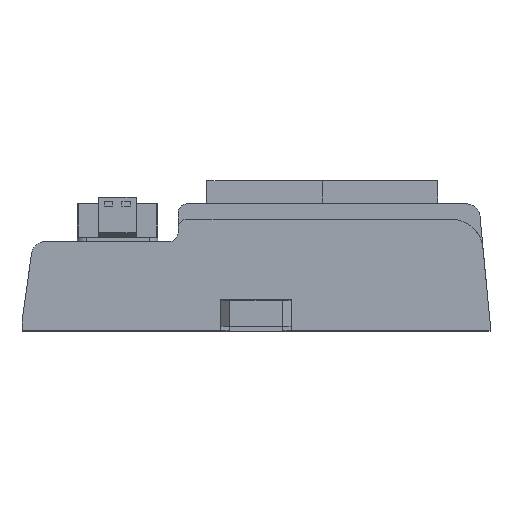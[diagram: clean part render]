
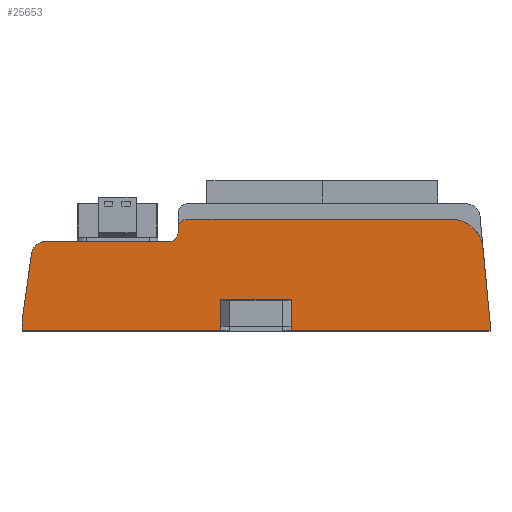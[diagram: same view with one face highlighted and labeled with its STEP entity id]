
A CAD part, top view. The second image highlights one B-rep face of the part: STEP entity #25653.
In plain terms, the highlighted planar face has unit normal (0, 0, 1).
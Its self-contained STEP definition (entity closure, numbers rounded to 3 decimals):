
#433 = CIRCLE ( 'NONE', #93480, 2. ) ;
#1128 = ORIENTED_EDGE ( 'NONE', *, *, #46376, .T. ) ;
#1267 = DIRECTION ( 'NONE',  ( 0., -1., 0. ) ) ;
#1520 = LINE ( 'NONE', #69442, #18689 ) ;
#2436 = VERTEX_POINT ( 'NONE', #67538 ) ;
#3886 = EDGE_CURVE ( 'NONE', #89527, #38822, #433, .T. ) ;
#3895 = CARTESIAN_POINT ( 'NONE',  ( 35., 23., 0. ) ) ;
#5439 = VERTEX_POINT ( 'NONE', #20722 ) ;
#6111 = AXIS2_PLACEMENT_3D ( 'NONE', #78638, #34823, #85974 ) ;
#6520 = DIRECTION ( 'NONE',  ( 0., 0., 1. ) ) ;
#7024 = LINE ( 'NONE', #33037, #75681 ) ;
#7804 = EDGE_CURVE ( 'NONE', #46048, #76654, #1520, .T. ) ;
#7855 = CARTESIAN_POINT ( 'NONE',  ( 0., 0., 0. ) ) ;
#8896 = DIRECTION ( 'NONE',  ( 0., -1., 0. ) ) ;
#9473 = CARTESIAN_POINT ( 'NONE',  ( 33., 22., 0. ) ) ;
#11131 = EDGE_LOOP ( 'NONE', ( #23706, #37467, #58855, #18964, #1128, #43330, #24916, #67323, #91381, #82428, #63231, #14938, #92328, #65839, #79667, #59873 ) ) ;
#13366 = EDGE_CURVE ( 'NONE', #46158, #2436, #27456, .T. ) ;
#14938 = ORIENTED_EDGE ( 'NONE', *, *, #43965, .T. ) ;
#14972 = CARTESIAN_POINT ( 'NONE',  ( 44.5, 0., 0. ) ) ;
#15202 = PLANE ( 'NONE',  #54405 ) ;
#15749 = EDGE_CURVE ( 'NONE', #45038, #71650, #38589, .T. ) ;
#16782 = EDGE_CURVE ( 'NONE', #71650, #61589, #48646, .T. ) ;
#16853 = DIRECTION ( 'NONE',  ( 1., 0., 0. ) ) ;
#17087 = LINE ( 'NONE', #35686, #92553 ) ;
#17164 = EDGE_CURVE ( 'NONE', #89527, #70863, #26131, .T. ) ;
#17682 = VERTEX_POINT ( 'NONE', #65761 ) ;
#17746 = LINE ( 'NONE', #36338, #34833 ) ;
#18689 = VECTOR ( 'NONE', #25685, 1000. ) ;
#18964 = ORIENTED_EDGE ( 'NONE', *, *, #27256, .F. ) ;
#20722 = CARTESIAN_POINT ( 'NONE',  ( 105., 0., 0. ) ) ;
#20892 = LINE ( 'NONE', #64742, #76954 ) ;
#21012 = DIRECTION ( 'NONE',  ( -0.138, -0.99, 0. ) ) ;
#21539 = CARTESIAN_POINT ( 'NONE',  ( 0., 0., 0. ) ) ;
#22270 = DIRECTION ( 'NONE',  ( 0., 0., 1. ) ) ;
#22584 = DIRECTION ( 'NONE',  ( 1., 0., 0. ) ) ;
#23706 = ORIENTED_EDGE ( 'NONE', *, *, #84532, .T. ) ;
#24096 = VECTOR ( 'NONE', #1267, 1000. ) ;
#24916 = ORIENTED_EDGE ( 'NONE', *, *, #13366, .T. ) ;
#25231 = CARTESIAN_POINT ( 'NONE',  ( 37., 25., 0. ) ) ;
#25243 = EDGE_CURVE ( 'NONE', #61589, #76182, #20892, .T. ) ;
#25653 = ADVANCED_FACE ( 'NONE', ( #44785 ), #15202, .T. ) ;
#25685 = DIRECTION ( 'NONE',  ( -1., 0., 0. ) ) ;
#26131 = LINE ( 'NONE', #38401, #64938 ) ;
#26636 = CARTESIAN_POINT ( 'NONE',  ( 35., 22., 0. ) ) ;
#27256 = EDGE_CURVE ( 'NONE', #50847, #46048, #17087, .T. ) ;
#27456 = LINE ( 'NONE', #79818, #83523 ) ;
#28985 = DIRECTION ( 'NONE',  ( 0., 1., 0. ) ) ;
#32562 = CIRCLE ( 'NONE', #51171, 2. ) ;
#33037 = CARTESIAN_POINT ( 'NONE',  ( 0., 0., 0. ) ) ;
#34173 = CARTESIAN_POINT ( 'NONE',  ( 5.112, 20., 0. ) ) ;
#34823 = DIRECTION ( 'NONE',  ( 0., 0., 1. ) ) ;
#34833 = VECTOR ( 'NONE', #28985, 1000. ) ;
#35686 = CARTESIAN_POINT ( 'NONE',  ( 60.5, 7., 0. ) ) ;
#36338 = CARTESIAN_POINT ( 'NONE',  ( 105., 0., 0. ) ) ;
#36781 = VECTOR ( 'NONE', #72611, 1000. ) ;
#36870 = CARTESIAN_POINT ( 'NONE',  ( 44.5, 7., 0. ) ) ;
#37467 = ORIENTED_EDGE ( 'NONE', *, *, #91847, .F. ) ;
#38401 = CARTESIAN_POINT ( 'NONE',  ( 0., 25., 0. ) ) ;
#38589 = LINE ( 'NONE', #52549, #75212 ) ;
#38822 = VERTEX_POINT ( 'NONE', #3895 ) ;
#39595 = EDGE_CURVE ( 'NONE', #38822, #78118, #60068, .T. ) ;
#40354 = DIRECTION ( 'NONE',  ( 1., 0., 0. ) ) ;
#40662 = VECTOR ( 'NONE', #8896, 1000. ) ;
#41428 = VECTOR ( 'NONE', #94227, 1000. ) ;
#42639 = DIRECTION ( 'NONE',  ( 0., 0., 1. ) ) ;
#43047 = CARTESIAN_POINT ( 'NONE',  ( 44.5, 5.5, 0. ) ) ;
#43330 = ORIENTED_EDGE ( 'NONE', *, *, #43828, .T. ) ;
#43828 = EDGE_CURVE ( 'NONE', #5439, #46158, #17746, .T. ) ;
#43965 = EDGE_CURVE ( 'NONE', #78118, #45038, #32562, .T. ) ;
#44785 = FACE_OUTER_BOUND ( 'NONE', #11131, .T. ) ;
#45038 = VERTEX_POINT ( 'NONE', #78976 ) ;
#46048 = VERTEX_POINT ( 'NONE', #76243 ) ;
#46158 = VERTEX_POINT ( 'NONE', #62740 ) ;
#46376 = EDGE_CURVE ( 'NONE', #50847, #5439, #73358, .T. ) ;
#48646 = CIRCLE ( 'NONE', #6111, 3. ) ;
#48845 = AXIS2_PLACEMENT_3D ( 'NONE', #86465, #42639, #93834 ) ;
#50295 = CARTESIAN_POINT ( 'NONE',  ( 37., 23., 0. ) ) ;
#50847 = VERTEX_POINT ( 'NONE', #71399 ) ;
#51171 = AXIS2_PLACEMENT_3D ( 'NONE', #9473, #60560, #16853 ) ;
#52549 = CARTESIAN_POINT ( 'NONE',  ( 0., 20., 0. ) ) ;
#54405 = AXIS2_PLACEMENT_3D ( 'NONE', #7855, #22270, #22584 ) ;
#57623 = DIRECTION ( 'NONE',  ( 1., 0., 0. ) ) ;
#57699 = VERTEX_POINT ( 'NONE', #14972 ) ;
#58851 = EDGE_CURVE ( 'NONE', #2436, #70863, #93294, .T. ) ;
#58855 = ORIENTED_EDGE ( 'NONE', *, *, #7804, .F. ) ;
#59873 = ORIENTED_EDGE ( 'NONE', *, *, #62004, .T. ) ;
#59887 = DIRECTION ( 'NONE',  ( -1., 0., 0. ) ) ;
#60068 = LINE ( 'NONE', #89144, #40662 ) ;
#60560 = DIRECTION ( 'NONE',  ( 0., 0., -1. ) ) ;
#60850 = LINE ( 'NONE', #43047, #41428 ) ;
#61589 = VERTEX_POINT ( 'NONE', #91170 ) ;
#62004 = EDGE_CURVE ( 'NONE', #76182, #17682, #82421, .T. ) ;
#62740 = CARTESIAN_POINT ( 'NONE',  ( 105., 2., 0. ) ) ;
#63231 = ORIENTED_EDGE ( 'NONE', *, *, #39595, .T. ) ;
#64742 = CARTESIAN_POINT ( 'NONE',  ( -0.273, 0.038, 0. ) ) ;
#64938 = VECTOR ( 'NONE', #82208, 1000. ) ;
#65761 = CARTESIAN_POINT ( 'NONE',  ( 0., 0., 0. ) ) ;
#65839 = ORIENTED_EDGE ( 'NONE', *, *, #16782, .T. ) ;
#67323 = ORIENTED_EDGE ( 'NONE', *, *, #58851, .T. ) ;
#67538 = CARTESIAN_POINT ( 'NONE',  ( 103.397, 18.67, 0. ) ) ;
#67610 = CARTESIAN_POINT ( 'NONE',  ( 0., 2., 0. ) ) ;
#68503 = CARTESIAN_POINT ( 'NONE',  ( 96.429, 25., 0. ) ) ;
#69442 = CARTESIAN_POINT ( 'NONE',  ( 44.5, 7., 0. ) ) ;
#70863 = VERTEX_POINT ( 'NONE', #68503 ) ;
#71399 = CARTESIAN_POINT ( 'NONE',  ( 60.5, 0., 0. ) ) ;
#71650 = VERTEX_POINT ( 'NONE', #34173 ) ;
#72433 = DIRECTION ( 'NONE',  ( -0.096, 0.995, 0. ) ) ;
#72611 = DIRECTION ( 'NONE',  ( 1., 0., 0. ) ) ;
#73358 = LINE ( 'NONE', #21539, #36781 ) ;
#75212 = VECTOR ( 'NONE', #59887, 1000. ) ;
#75681 = VECTOR ( 'NONE', #40354, 1000. ) ;
#76182 = VERTEX_POINT ( 'NONE', #67610 ) ;
#76243 = CARTESIAN_POINT ( 'NONE',  ( 60.5, 7., 0. ) ) ;
#76654 = VERTEX_POINT ( 'NONE', #36870 ) ;
#76954 = VECTOR ( 'NONE', #21012, 1000. ) ;
#78118 = VERTEX_POINT ( 'NONE', #26636 ) ;
#78638 = CARTESIAN_POINT ( 'NONE',  ( 5.112, 17., 0. ) ) ;
#78976 = CARTESIAN_POINT ( 'NONE',  ( 33., 20., 0. ) ) ;
#79667 = ORIENTED_EDGE ( 'NONE', *, *, #25243, .T. ) ;
#79818 = CARTESIAN_POINT ( 'NONE',  ( 104.229, 10.022, 0. ) ) ;
#82208 = DIRECTION ( 'NONE',  ( 1., 0., 0. ) ) ;
#82421 = LINE ( 'NONE', #88807, #24096 ) ;
#82428 = ORIENTED_EDGE ( 'NONE', *, *, #3886, .T. ) ;
#83523 = VECTOR ( 'NONE', #72433, 1000. ) ;
#84532 = EDGE_CURVE ( 'NONE', #17682, #57699, #7024, .T. ) ;
#85974 = DIRECTION ( 'NONE',  ( 1., 0., 0. ) ) ;
#86465 = CARTESIAN_POINT ( 'NONE',  ( 96.429, 18., 0. ) ) ;
#86846 = DIRECTION ( 'NONE',  ( 0., 1., 0. ) ) ;
#88807 = CARTESIAN_POINT ( 'NONE',  ( 0., 0., 0. ) ) ;
#89144 = CARTESIAN_POINT ( 'NONE',  ( 35., 0., 0. ) ) ;
#89527 = VERTEX_POINT ( 'NONE', #25231 ) ;
#91170 = CARTESIAN_POINT ( 'NONE',  ( 2.141, 17.413, 0. ) ) ;
#91381 = ORIENTED_EDGE ( 'NONE', *, *, #17164, .F. ) ;
#91847 = EDGE_CURVE ( 'NONE', #76654, #57699, #60850, .T. ) ;
#92328 = ORIENTED_EDGE ( 'NONE', *, *, #15749, .T. ) ;
#92553 = VECTOR ( 'NONE', #86846, 1000. ) ;
#93294 = CIRCLE ( 'NONE', #48845, 7. ) ;
#93480 = AXIS2_PLACEMENT_3D ( 'NONE', #50295, #6520, #57623 ) ;
#93834 = DIRECTION ( 'NONE',  ( 1., 0., 0. ) ) ;
#94227 = DIRECTION ( 'NONE',  ( 0., -1., 0. ) ) ;
